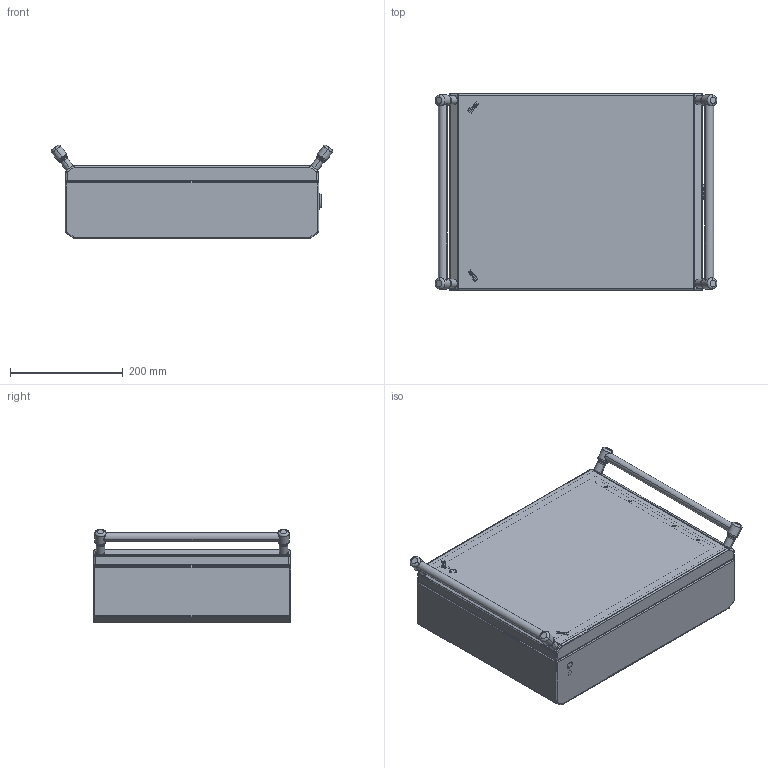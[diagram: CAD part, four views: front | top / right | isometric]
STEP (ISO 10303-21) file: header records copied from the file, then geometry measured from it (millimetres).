
FILE_DESCRIPTION (( 'STEP AP203' ), '1' );
FILE_NAME ('BK43AM-COM.step', '2023-09-19T13:19:46', ( '' ), ( '' ), 'SwSTEP 2.0', 'SolidWorks 2021', '' );
FILE_SCHEMA (( 'CONFIG_CONTROL_DESIGN' ));
Length unit declared in the file: millimetre
Products named in the file (20): Tubo maniglia Box BK H300-H550_TMBK350; Parte7^ SG215S_Assiemi Box serie BK33-BK75M; Porte Box BK33-BK75M_POBK43M; PRM615TL316; 1000-u183^ SG215S_Assiemi Box serie BK33-BK75M; Fasciame FABK33- FABK75M_FABK43; 1000-24^1000-u183_ SG215S_Assiemi Box serie BK33-BK75M; 1000-277-01PI^1000-u183_ SG215S_Assiemi Box serie BK33-BK75M;  SG215S^Assiemi Box serie BK33-BK75M_Chiusura_BASSO;  1000-U134^ SG215S_Assiemi Box serie BK33-BK75M; Staffa Serraggio Box BK_SSBKH350; 1000-156-01^1000-u183_ SG215S_Assiemi Box serie BK33-BK75M; Scarpetta Box serie BK; 1000-02-RA_1^ 1000-U134_ SG215S_Assiemi Box serie BK33-BK75M; 1000-03-PG^1000-u183_ SG215S_Assiemi Box serie BK33-BK75M; 1000-101-GPF_GPD_1^ 1000-U134_ SG215S_Assiemi Box serie BK33-BK75M; OLD-ADMT_ADMT; Guarnizione Schiumata 13x6.5_GBK43-GBK43M; BK43AM-COM; LOGO_ILINOX
Assembly tree (25 placements, depth 4):
  BK43AM-COM
    Fasciame FABK33- FABK75M_FABK43
    Porte Box BK33-BK75M_POBK43M
    Guarnizione Schiumata 13x6.5_GBK43-GBK43M
    Staffa Serraggio Box BK_SSBKH350
    Scarpetta Box serie BK
    Tubo maniglia Box BK H300-H550_TMBK350  x2
     SG215S^Assiemi Box serie BK33-BK75M_Chiusura_BASSO
       1000-U134^ SG215S_Assiemi Box serie BK33-BK75M
        1000-101-GPF_GPD_1^ 1000-U134_ SG215S_Assiemi Box serie BK33-BK75M
        1000-02-RA_1^ 1000-U134_ SG215S_Assiemi Box serie BK33-BK75M
      1000-u183^ SG215S_Assiemi Box serie BK33-BK75M
        1000-156-01^1000-u183_ SG215S_Assiemi Box serie BK33-BK75M
        1000-03-PG^1000-u183_ SG215S_Assiemi Box serie BK33-BK75M
        1000-24^1000-u183_ SG215S_Assiemi Box serie BK33-BK75M
        1000-277-01PI^1000-u183_ SG215S_Assiemi Box serie BK33-BK75M
      Parte7^ SG215S_Assiemi Box serie BK33-BK75M
    OLD-ADMT_ADMT  x2
    LOGO_ILINOX  x2
    PRM615TL316  x4
Bounding box: 499.31 x 350 x 166.07 mm (x, y, z)
Volume: 1130862 mm3; surface area: 1251867 mm2
Topology: 47 solids, 54 shells, 1251 faces, 2899 edges, 1762 vertices
Faces by surface type: plane 596, cylinder 438, cone 72, torus 64, sphere 50, bspline 31
Entity records: 33899 total; most frequent: CARTESIAN_POINT 8158, DIRECTION 5179, ORIENTED_EDGE 4675, EDGE_CURVE 2341, AXIS2_PLACEMENT_3D 1973, VERTEX_POINT 1444, VECTOR 1233, LINE 1233
